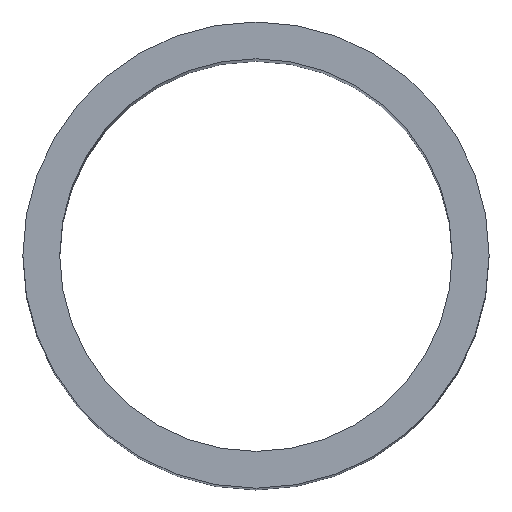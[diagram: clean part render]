
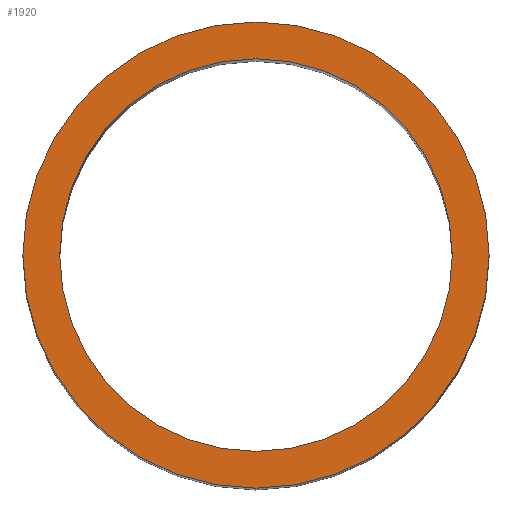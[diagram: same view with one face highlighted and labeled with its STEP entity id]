
A CAD part, top view. The second image highlights one B-rep face of the part: STEP entity #1920.
In plain terms, the highlighted planar face has unit normal (0, 0, 1).
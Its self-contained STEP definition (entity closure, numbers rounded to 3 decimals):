
#1570=CARTESIAN_POINT('',(0.,0.,120.));
#1580=DIRECTION('',(0.,0.,1.));
#1590=DIRECTION('',(1.,0.,0.));
#1600=AXIS2_PLACEMENT_3D('',#1570,#1580,#1590);
#1610=PLANE('',#1600);
#1620=CARTESIAN_POINT('',(51.424,55.567,120.));
#1630=DIRECTION('',(0.,0.,1.));
#1640=DIRECTION('',(1.,0.,0.));
#1650=AXIS2_PLACEMENT_3D('',#1620,#1630,#1640);
#1660=CIRCLE('',#1650,19.);
#1670=CARTESIAN_POINT('',(70.424,55.567,120.));
#1680=VERTEX_POINT('',#1670);
#1690=CARTESIAN_POINT('',(32.424,55.567,120.));
#1700=VERTEX_POINT('',#1690);
#1710=EDGE_CURVE('',#1680,#1700,#1660,.T.);
#1720=ORIENTED_EDGE('',*,*,#1710,.T.);
#1730=EDGE_CURVE('',#1700,#1680,#1660,.T.);
#1740=ORIENTED_EDGE('',*,*,#1730,.T.);
#1750=EDGE_LOOP('',(#1740,#1720));
#1760=FACE_OUTER_BOUND('',#1750,.T.);
#1770=CARTESIAN_POINT('',(51.424,55.567,120.));
#1780=DIRECTION('',(0.,0.,1.));
#1790=DIRECTION('',(1.,0.,0.));
#1800=AXIS2_PLACEMENT_3D('',#1770,#1780,#1790);
#1810=CIRCLE('',#1800,16.);
#1820=CARTESIAN_POINT('',(67.424,55.567,120.));
#1830=VERTEX_POINT('',#1820);
#1840=CARTESIAN_POINT('',(35.424,55.567,120.));
#1850=VERTEX_POINT('',#1840);
#1860=EDGE_CURVE('',#1830,#1850,#1810,.T.);
#1870=ORIENTED_EDGE('',*,*,#1860,.F.);
#1880=EDGE_CURVE('',#1850,#1830,#1810,.T.);
#1890=ORIENTED_EDGE('',*,*,#1880,.F.);
#1900=EDGE_LOOP('',(#1890,#1870));
#1910=FACE_BOUND('',#1900,.T.);
#1920=ADVANCED_FACE('',(#1760,#1910),#1610,.T.);
